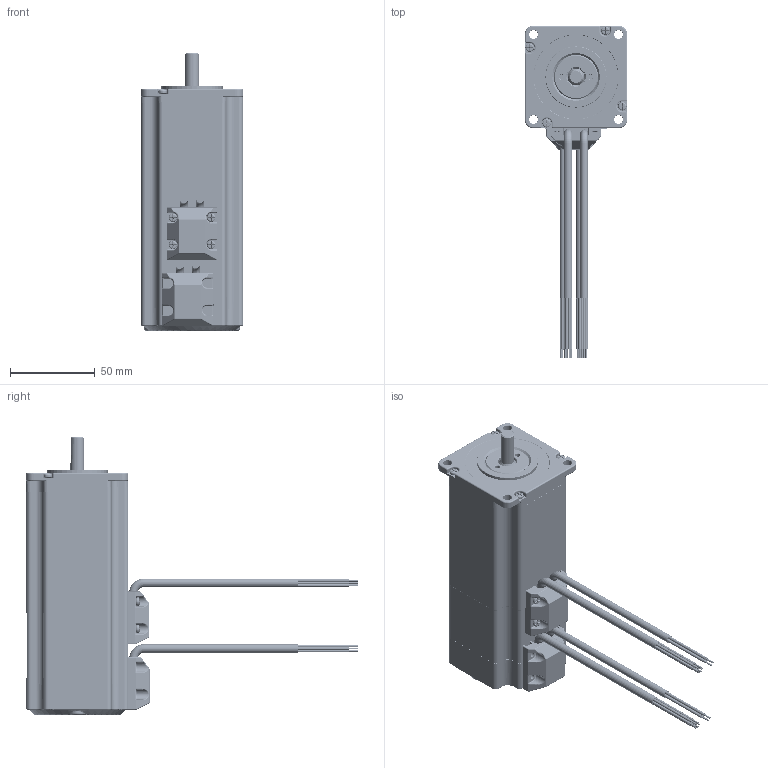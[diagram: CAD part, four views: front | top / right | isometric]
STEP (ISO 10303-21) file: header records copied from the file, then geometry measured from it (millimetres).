
FILE_DESCRIPTION (( 'STEP AP203' ), '1' );
FILE_NAME ('CS-M22430B_3D.STEP', '2019-12-20T13:51:47', ( 'hwtest' ), ( 'Microsoft' ), 'SwSTEP 2.0', 'SolidWorks 2014', '' );
FILE_SCHEMA (( 'CONFIG_CONTROL_DESIGN' ));
Products named in the file (1): CS-M22430B_3D
Bounding box: 60 x 195.14 x 163.37 mm (x, y, z)
Surface area: 157377.4 mm2 (no closed solid volume)
Topology: 0 solids, 78 shells, 4628 faces, 12800 edges, 8182 vertices
Faces by surface type: cylinder 2253, plane 1673, cone 259, torus 206, bspline 189, sphere 48
Full cylindrical faces by diameter (mm): 2.6 x4
Entity records: 239628 total; most frequent: CARTESIAN_POINT 127360, ORIENTED_EDGE 25252, DIRECTION 21665, EDGE_CURVE 12636, VERTEX_POINT 8186, AXIS2_PLACEMENT_3D 7529, VECTOR 6607, LINE 6607
